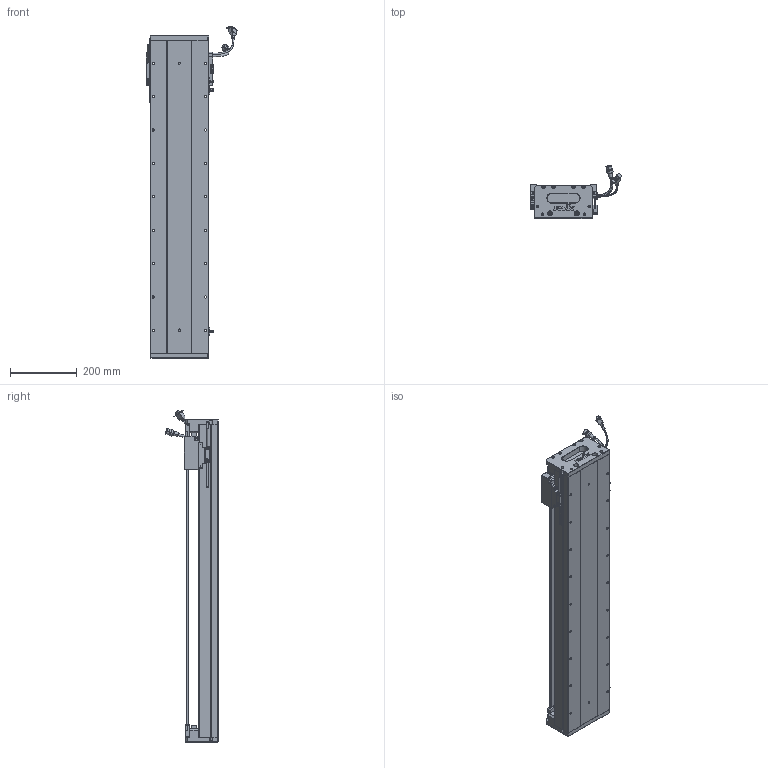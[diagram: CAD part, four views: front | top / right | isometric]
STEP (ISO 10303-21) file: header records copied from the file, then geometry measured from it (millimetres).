
FILE_DESCRIPTION (( 'STEP AP203' ), '1' );
FILE_NAME ('Z1-RY170D-1-L500-B-K.SLDASM_0750.step', '2021-05-17T08:51:56', ( '盈信电脑' ), ( '东莞市道滘镇水果街19号' ), 'SwSTEP 2.0', 'SolidWorks 2016', '' );
FILE_SCHEMA (( 'CONFIG_CONTROL_DESIGN' ));
Length unit declared in the file: millimetre
Products named in the file (36): HARNESS-Part-2; Z-RY170詩湍奻揤裔; SCREW-M1.6-2; 170-Z-臏賑輸盄裔(21遴); LABEL-Part-1; SCALE-Part-1; HOLDER0; Z1-RY170-L500詩湍145mm遵_0750; SCREW-M1.6-3; SCREW-M1.7-1; PSLH080_PSLF2; COVER; HARNESS; Z1-RY170D-1-L500-B-K.SLDASM_0750; RY170直线电机感应器672光电感应片; HARNESS-Part-1; 榋妏寠巭燃_暯_M2_2; LABEL; SCREW-M1.7; Z-RY170詩湍狟揤裔; SCREW-M1.6-1; SEAL-Part-1; 140雄赽晤鎢ん堤盄; SHIELDPLATE; SEAL; 140蚥薯蝶輸; Z-170詩湍傷裔啣; Z1-RY170-L500耀郪菁釱_0750; COVER-Part-1; Z1-RY170臏賑輸(21遴); SCALE-Part-2; 覜茼ん672; SCREW-M1.6; SCALE; PBU_SHEET; 080黍杅芛假蚾釱21遴
Assembly tree (41 placements, depth 4):
  Z1-RY170D-1-L500-B-K.SLDASM_0750
    Z1-RY170-L500耀郪菁釱_0750
    RY170直线电机感应器672光电感应片
    Z1-RY170臏賑輸(21遴)
    覜茼ん672  x3
    PSLH080_PSLF2
      SCALE
        SCALE-Part-1
        SCALE-Part-2
      HARNESS
        HARNESS-Part-1
        HARNESS-Part-2
      LABEL
        LABEL-Part-1
      COVER
        COVER-Part-1
      SEAL
        SEAL-Part-1
      榋妏寠巭燃_暯_M2_2
      SHIELDPLATE
      SCREW-M1.7
      SCREW-M1.7-1
      PBU_SHEET
      SCREW-M1.6
      SCREW-M1.6-1
      SCREW-M1.6-2
      SCREW-M1.6-3
      HOLDER0
    080黍杅芛假蚾釱21遴
    Z1-RY170-L500詩湍145mm遵_0750
    Z-170詩湍傷裔啣  x2
    Z-RY170詩湍奻揤裔  x2
    Z-RY170詩湍狟揤裔  x2
    140蚥薯蝶輸  x2
    170-Z-臏賑輸盄裔(21遴)
    140雄赽晤鎢ん堤盄
Bounding box: 275.34 x 158.11 x 993.72 mm (x, y, z)
Volume: 5414601.6 mm3; surface area: 1340195.8 mm2
Topology: 36 solids, 36 shells, 2862 faces, 7621 edges, 4797 vertices
Faces by surface type: cylinder 1272, plane 1128, cone 340, torus 69, bspline 53
Entity records: 82741 total; most frequent: CARTESIAN_POINT 20798, ORIENTED_EDGE 12134, DIRECTION 12027, EDGE_CURVE 6067, AXIS2_PLACEMENT_3D 4376, VERTEX_POINT 3915, VECTOR 3275, LINE 3275
